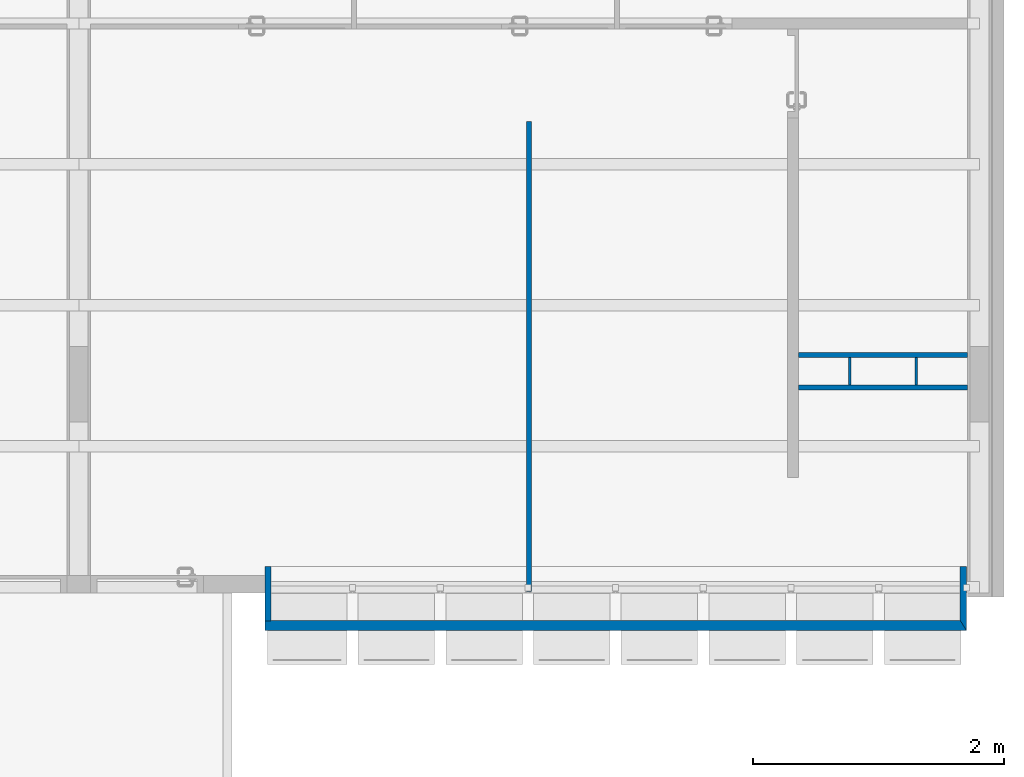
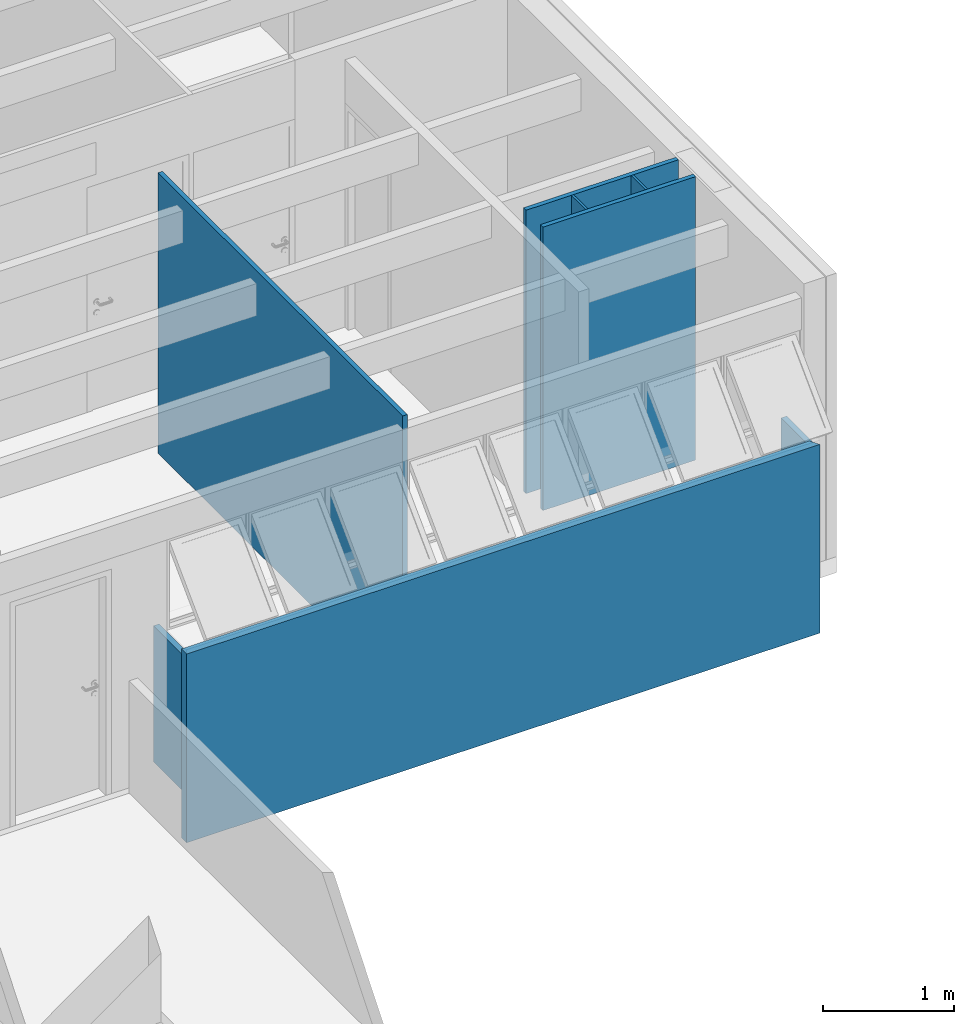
# One storey, part 36 of 40: 8 walls.
"""IFC4 building model written with IfcOpenShell, lengths in millimetres."""

from ifc_helpers import new_model, entity, si_unit, converted_unit, derived_unit, direction, frame, origin_with_axes, place, context, subcontext, project, spatial, line, indexed_curve, outline, extrude, material, layer, layer_set, layer_usage, type_object, element, save


model = new_model("IFC4")

# Units and contexts
model_context = context("Model", 3, precision=0.01, world=origin_with_axes(), true_north=direction((0.0, 1.0)))
body_context = subcontext(model_context, "Body", "Model", "MODEL_VIEW")
ifc_project = project(units=[si_unit("LENGTHUNIT", "METRE", prefix="MILLI"), si_unit("AREAUNIT", "SQUARE_METRE"), si_unit("VOLUMEUNIT", "CUBIC_METRE"), converted_unit("PLANEANGLEUNIT", "DEGREE", entity("IfcPlaneAngleMeasure", 0.0174532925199), si_unit("PLANEANGLEUNIT", "RADIAN"), dimensions=[0, 0, 0, 0, 0, 0, 0]), converted_unit("TIMEUNIT", "Year", entity("IfcTimeMeasure", 31556926.0), si_unit("TIMEUNIT", "SECOND"), dimensions=[0, 0, 1, 0, 0, 0, 0]), si_unit("MASSUNIT", "GRAM", prefix="KILO"), si_unit("THERMODYNAMICTEMPERATUREUNIT", "DEGREE_CELSIUS"), si_unit("LUMINOUSINTENSITYUNIT", "LUMEN"), si_unit("ENERGYUNIT", "JOULE", prefix="MEGA"), derived_unit("THERMALCONDUCTANCEUNIT", [(si_unit("POWERUNIT", "WATT"), 1), (si_unit("LENGTHUNIT", "METRE"), -1), (si_unit("THERMODYNAMICTEMPERATUREUNIT", "KELVIN"), -1)]), derived_unit("SPECIFICHEATCAPACITYUNIT", [(si_unit("ENERGYUNIT", "JOULE"), 1), (si_unit("MASSUNIT", "GRAM", prefix="KILO"), -1), (si_unit("THERMODYNAMICTEMPERATUREUNIT", "KELVIN"), -1)]), derived_unit("MASSDENSITYUNIT", [(si_unit("MASSUNIT", "GRAM", prefix="KILO"), 1), (si_unit("VOLUMEUNIT", "CUBIC_METRE"), -1)])], contexts=[model_context])

# Site, building, storey
site_placement = place(None, origin_with_axes())
site = spatial("IfcSite", under=ifc_project, at=site_placement, Name="Local", CompositionType="ELEMENT")
building_placement = place(site_placement, origin_with_axes())
building = spatial("IfcBuilding", under=site, at=building_placement, Name="Construção", CompositionType="ELEMENT")
storey_placement = place(building_placement, origin_with_axes())
storey = spatial("IfcBuildingStorey", under=building, at=storey_placement, Name="Primeiro Pavimento", CompositionType="ELEMENT", Elevation=0.0)

# Walls
ifc_material_1 = material(Name="GENÉRICO - VEDAÇÃO EXTERNA")
ifc_layer_1 = layer(ifc_material_1, 40.0, ventilated="UNKNOWN", Name="GENÉRICO - VEDAÇÃO EXTERNA")
ifc_layer_set_1 = layer_set([ifc_layer_1], Name="GENÉRICO - VEDAÇÃO EXTERNA 40")
ifc_layer_usage_1 = layer_usage(ifc_layer_set_1, "AXIS2", "NEGATIVE", 40.0)
wall_type_1 = type_object("IfcWallType", Name="GENÉRICO - VEDAÇÃO EXTERNA 40", PredefinedType="NOTDEFINED")
wall_1_placement = place(storey_placement, frame((10960.0, 21655.0, 0.0), z_axis=(0.0, 0.0, 1.0), x_axis=(0.0, -1.0, 0.0)))
element("IfcWall", 1, at=wall_1_placement, inside=storey, type_object=wall_type_1, material=ifc_layer_usage_1, Name="APTO4-PAREDE-003", PredefinedType="NOTDEFINED", context=body_context, shape_type="SweptSolid", body=[
    extrude(outline(indexed_curve([(0.0, 0.0), (3750.0, 0.0), (3750.0, 40.0), (0.0, 40.0)], segments=[line(1, 2, 3, 4, 1)])), origin_with_axes(), (0.0, 0.0, 1.0), 2620.0),
])
ifc_layer_usage_2 = layer_usage(ifc_layer_set_1, "AXIS2", "NEGATIVE", 40.0)
wall_2_placement = place(storey_placement, frame((14480.0, 19815.0, 0.0), z_axis=(0.0, 0.0, 1.0), x_axis=(-1.0, 0.0, 0.0)))
element("IfcWall", 2, at=wall_2_placement, inside=storey, type_object=wall_type_1, material=ifc_layer_usage_2, Name="APTO4-PAREDE-011", PredefinedType="NOTDEFINED", context=body_context, shape_type="SweptSolid", body=[
    extrude(outline(indexed_curve([(0.0, 0.0), (1350.0, 0.0), (1350.0, 40.0), (0.0, 40.0)], segments=[line(1, 2, 3, 4, 1)])), origin_with_axes(), (0.0, 0.0, 1.0), 2650.0),
])
ifc_layer_usage_3 = layer_usage(ifc_layer_set_1, "AXIS2", "NEGATIVE", 40.0)
wall_3_placement = place(storey_placement, frame((13040.0, 19515.0, 0.0), z_axis=(0.0, 0.0, 1.0), x_axis=(1.0, 0.0, 0.0)))
element("IfcWall", 3, at=wall_3_placement, inside=storey, type_object=wall_type_1, material=ifc_layer_usage_3, Name="APTO4-PAREDE-010", PredefinedType="NOTDEFINED", context=body_context, shape_type="SweptSolid", body=[
    extrude(outline(indexed_curve([(90.0, 0.0), (1440.0, 0.0), (1440.0, 40.0), (90.0, 40.0)], segments=[line(1, 2, 3, 4, 1)])), origin_with_axes(), (0.0, 0.0, 1.0), 2650.0),
])
ifc_material_2 = material(Name="Concreto Armado Moldado in Loco - Estrutural")
ifc_layer_2 = layer(ifc_material_2, 50.0, ventilated="UNKNOWN", Name="Concreto Armado Moldado in Loco - Estrutural")
ifc_layer_set_2 = layer_set([ifc_layer_2], Name="Concreto Armado Moldado in Loco - Estrutural 50")
ifc_layer_usage_4 = layer_usage(ifc_layer_set_2, "AXIS2", "POSITIVE", -50.0)
wall_type_2 = type_object("IfcWallType", Name="Concreto Armado Moldado in Loco - Estrutural 50", PredefinedType="NOTDEFINED")
wall_4_placement = place(storey_placement, frame((14470.0, 18105.0000013, 0.0), z_axis=(0.0, 0.0, 1.0), x_axis=(0.0, -1.0, 0.0)))
element("IfcWall", 4, at=wall_4_placement, inside=storey, type_object=wall_type_2, material=ifc_layer_usage_4, Name="APTO4-PAREDE-018", PredefinedType="NOTDEFINED", context=body_context, shape_type="SweptSolid", body=[
    extrude(outline(indexed_curve([(0.0, -50.0), (430.0, -50.0), (510.0, 0.0), (0.0, 0.0)], segments=[line(1, 2, 3, 4, 1)])), origin_with_axes(), (0.0, 0.0, 1.0), 1270.0),
])
ifc_layer_usage_5 = layer_usage(ifc_layer_set_2, "AXIS2", "POSITIVE", -50.0)
wall_5_placement = place(storey_placement, frame((8920.0, 18105.0000013, 0.0), z_axis=(0.0, 0.0, 1.0), x_axis=(0.0, -1.0, 0.0)))
element("IfcWall", 5, at=wall_5_placement, inside=storey, type_object=wall_type_2, material=ifc_layer_usage_5, Name="APTO4-PAREDE-016", PredefinedType="NOTDEFINED", context=body_context, shape_type="SweptSolid", body=[
    extrude(outline(indexed_curve([(0.0, -50.0), (435.0, -50.0), (435.0, 0.0), (0.0, 0.0)], segments=[line(1, 2, 3, 4, 1)])), origin_with_axes(), (0.0, 0.0, 1.0), 1270.0),
])
ifc_layer_3 = layer(ifc_material_1, 20.0, ventilated="UNKNOWN", Name="GENÉRICO - VEDAÇÃO EXTERNA")
ifc_layer_set_3 = layer_set([ifc_layer_3], Name="GENÉRICO - VEDAÇÃO EXTERNA 20")
ifc_layer_usage_6 = layer_usage(ifc_layer_set_3, "AXIS2", "NEGATIVE", 20.0)
wall_type_3 = type_object("IfcWallType", Name="GENÉRICO - VEDAÇÃO EXTERNA 20", PredefinedType="NOTDEFINED")
wall_6_placement = place(storey_placement, frame((14060.0, 19815.0, 0.0), z_axis=(0.0, 0.0, 1.0), x_axis=(0.0, -1.0, 0.0)))
element("IfcWall", 6, at=wall_6_placement, inside=storey, type_object=wall_type_3, material=ifc_layer_usage_6, Name="APTO4-PAREDE-009", PredefinedType="NOTDEFINED", context=body_context, shape_type="SweptSolid", body=[
    extrude(outline(indexed_curve([(40.0, 0.0), (260.0, 0.0), (260.0, 20.0), (40.0, 20.0)], segments=[line(1, 2, 3, 4, 1)])), origin_with_axes(), (0.0, 0.0, 1.0), 2650.0),
])
ifc_layer_usage_7 = layer_usage(ifc_layer_set_3, "AXIS2", "NEGATIVE", 0.0)
wall_7_placement = place(storey_placement, frame((13530.0, 19515.0, 0.0), z_axis=(0.0, 0.0, 1.0), x_axis=(0.0, 1.0, 0.0)))
element("IfcWall", 7, at=wall_7_placement, inside=storey, type_object=wall_type_3, material=ifc_layer_usage_7, Name="APTO4-PAREDE-008", PredefinedType="NOTDEFINED", context=body_context, shape_type="SweptSolid", body=[
    extrude(outline(indexed_curve([(40.0, -20.0), (260.0, -20.0), (260.0, 0.0), (40.0, 0.0)], segments=[line(1, 2, 3, 4, 1)])), origin_with_axes(), (0.0, 0.0, 1.0), 2650.0),
])
ifc_layer_4 = layer(ifc_material_2, 80.0, ventilated="UNKNOWN", Name="Concreto Armado Moldado in Loco - Estrutural")
ifc_layer_set_4 = layer_set([ifc_layer_4], Name="Concreto Armado Moldado in Loco - Estrutural 80")
ifc_layer_usage_8 = layer_usage(ifc_layer_set_4, "AXIS2", "NEGATIVE", 80.0)
wall_type_4 = type_object("IfcWallType", Name="Concreto Armado Moldado in Loco - Estrutural 80", PredefinedType="NOTDEFINED")
wall_8_placement = place(storey_placement, frame((14470.0, 17675.0000013, -450.0), z_axis=(0.0, 0.0, 1.0), x_axis=(-1.0, 0.0, 0.0)))
element("IfcWall", 8, at=wall_8_placement, inside=storey, type_object=wall_type_4, material=ifc_layer_usage_8, Name="APTO4-PAREDE-017", PredefinedType="NOTDEFINED", context=body_context, shape_type="SweptSolid", body=[
    extrude(outline(indexed_curve([(50.0, 0.0), (5600.0, 0.0), (5600.0, 80.0), (0.0, 80.0)], segments=[line(1, 2, 3, 4, 1)])), origin_with_axes(), (0.0, 0.0, 1.0), 1765.0),
])

save(model, "model.ifc")
